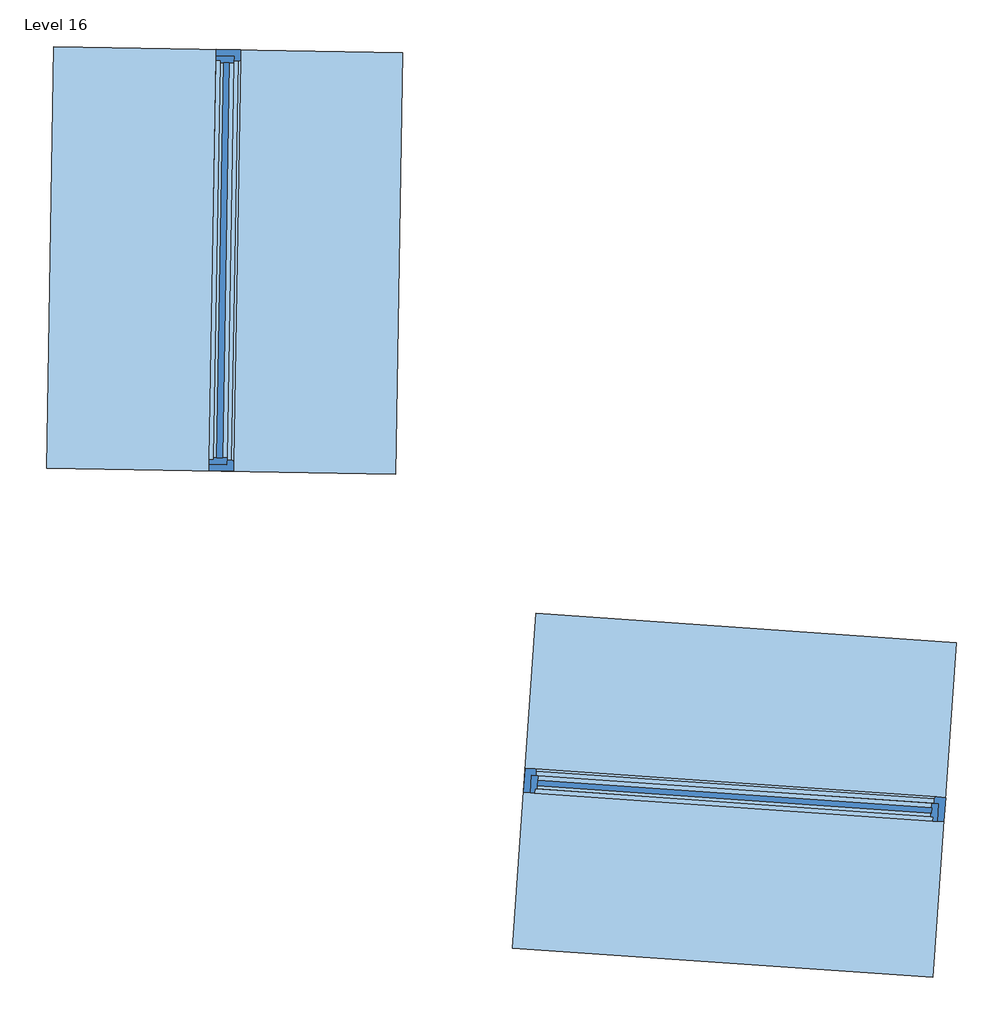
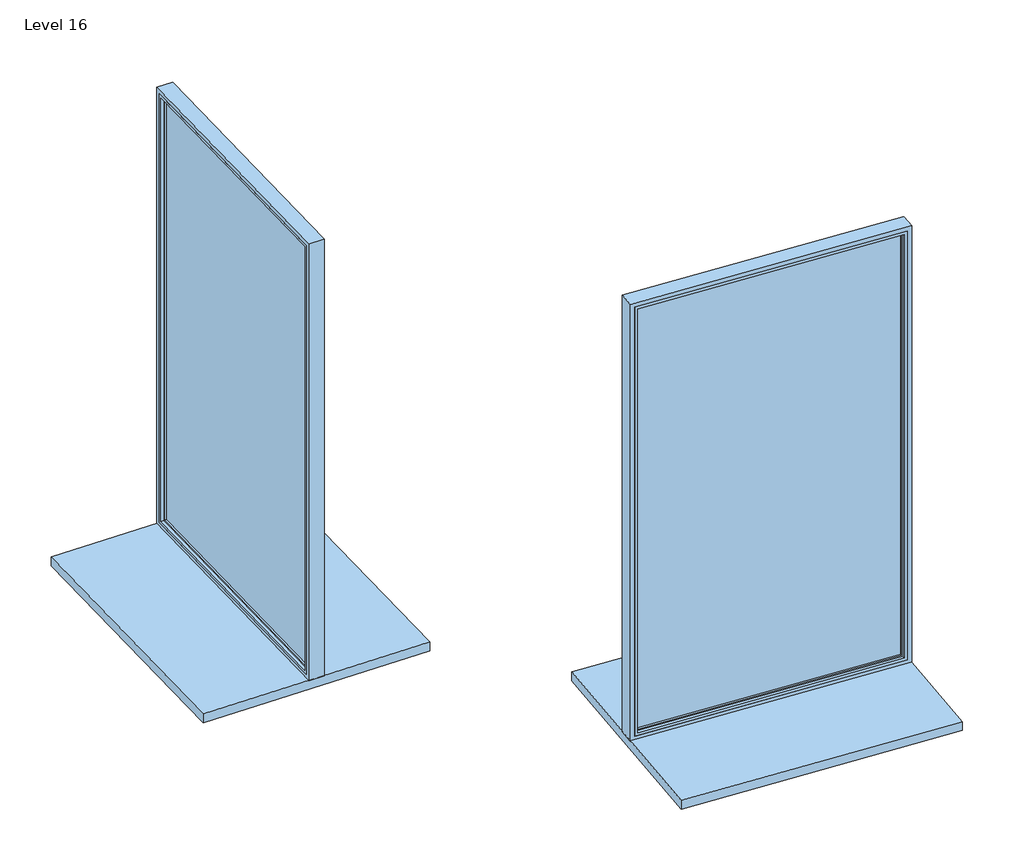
# One storey: 2 windows.
"""IFC4 building model written with IfcOpenShell, lengths in millimetres."""

from ifc_helpers import new_model, si_unit, origin, place, context, project, spatial, transform, mapped, element, save
from components import finestra_semplice_3rd_window_0_95x1_62_2_eac4eb58, finestra_semplice_3rd_window_0_95x1_62_2_18a6eb5c

model = new_model("IFC4")

# Units and contexts
model_context = context("Model", 3, world=origin())
ifc_project = project(units=[si_unit("LENGTHUNIT", "METRE", prefix="MILLI")], contexts=[model_context])

# Site, building, storey
site = spatial("IfcSite", under=ifc_project)
building = spatial("IfcBuilding", under=site)
storey = spatial("IfcBuildingStorey", under=building, Name="Level 16", Elevation=2690.7172067)

# Windows
placement = place(None, origin())
finestra_semplice_3rd_window_0_95x1_62_2_shape = finestra_semplice_3rd_window_0_95x1_62_2_eac4eb58(model_context)
element("IfcWindow", 1, ObjectType="Finestra Semplice : 3rd window 0.95x1.62 2", at=placement, inside=storey, context=model_context, shape_type="MappedRepresentation", body=[
    mapped(finestra_semplice_3rd_window_0_95x1_62_2_shape, transform((-67.7448059, -1617.127499, 2950.9210855), x_axis=(0.9975640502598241, -0.06975647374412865, 0.0), y_axis=(0.06975647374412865, 0.9975640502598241, 0.0), z_axis=(0.0, 0.0, 1.0))),
])
finestra_semplice_3rd_window_0_95x1_62_2_2_shape = finestra_semplice_3rd_window_0_95x1_62_2_18a6eb5c(model_context)
element("IfcWindow", 2, ObjectType="Finestra Semplice : 3rd window 0.95x1.62 2", at=placement, inside=storey, context=model_context, shape_type="MappedRepresentation", body=[
    mapped(finestra_semplice_3rd_window_0_95x1_62_2_2_shape, transform((-1224.0163517, -404.5558001, 2983.4645715), x_axis=(-0.01745240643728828, -0.9998476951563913, 0.0), y_axis=(0.9998476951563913, -0.01745240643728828, 0.0), z_axis=(0.0, 0.0, 1.0))),
])

save(model, "model.ifc")
